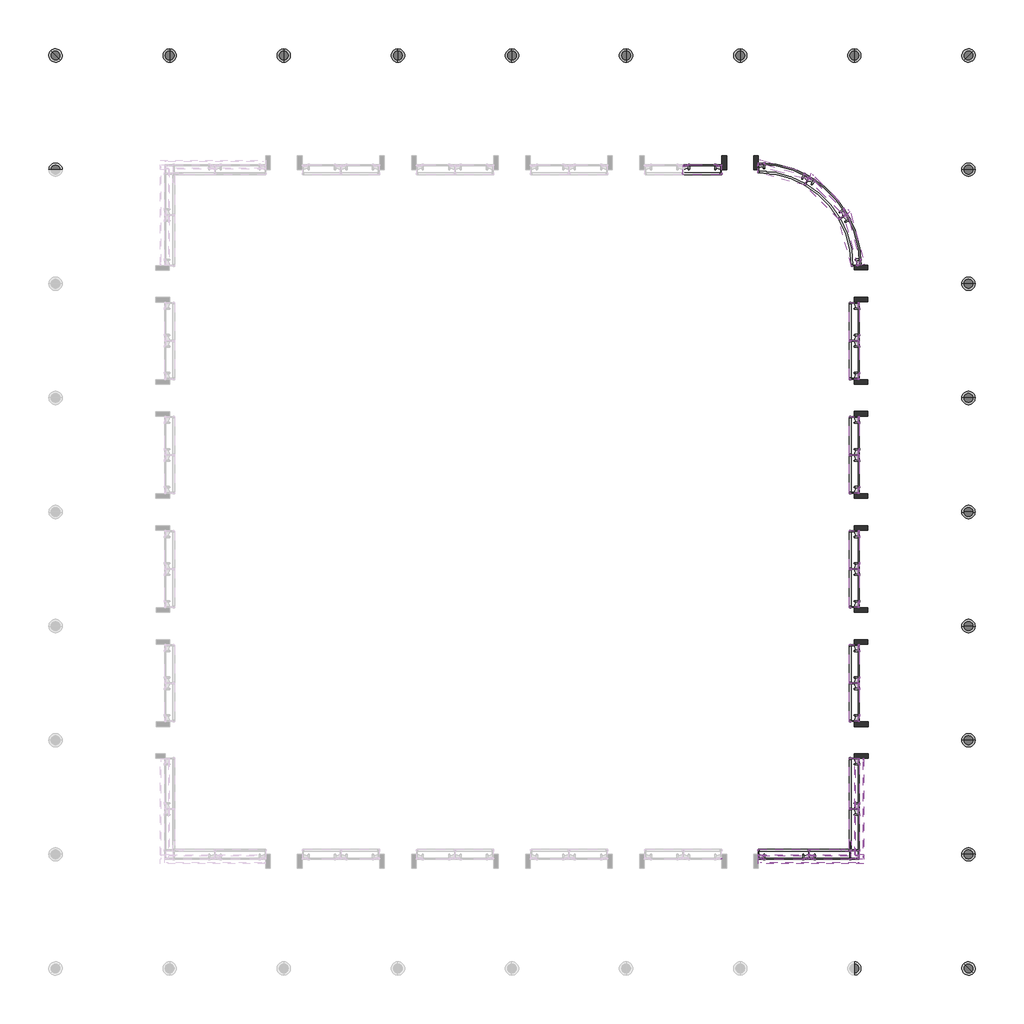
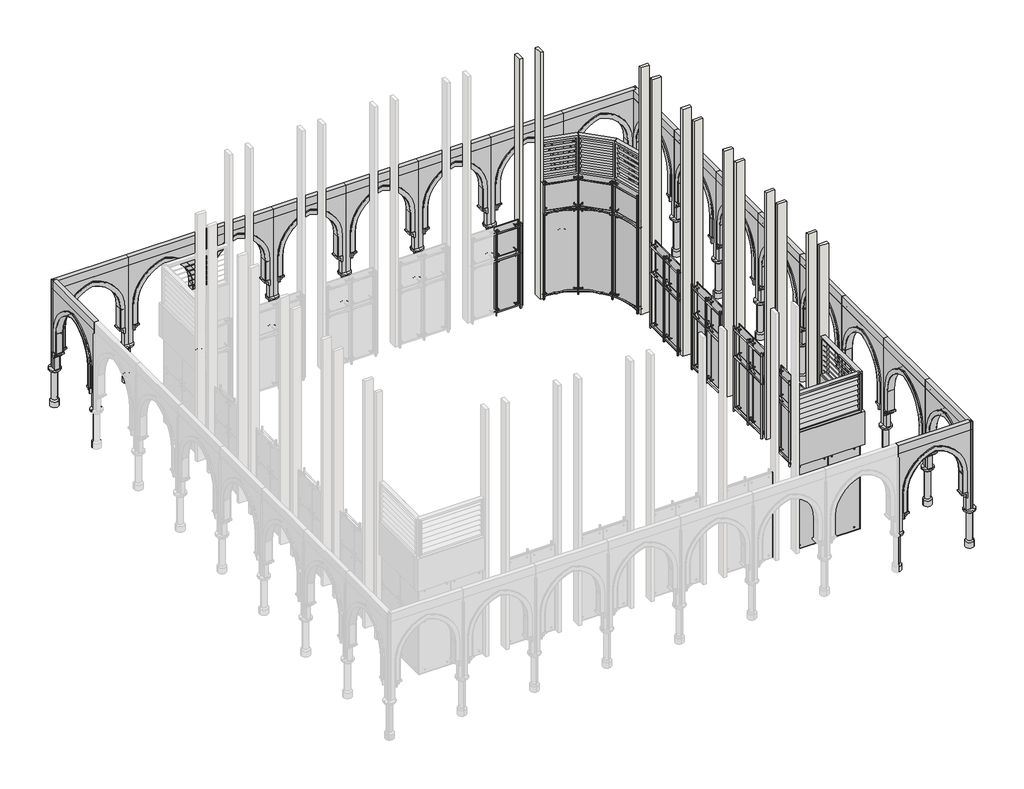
# One storey, part 3 of 3: 77 plates, 12 walls.
"""IFC4 building model written with IfcOpenShell, lengths in millimetres."""

from ifc_helpers import new_model, si_unit, frame, origin, origin_with_axes, place, context, project, spatial, polyline, outline, extrude, faceted_brep, transform, mapped, element, save
from components import plate_934565e3, plate_2a50b36d, plate_2afd96b2, plate_4a8f0e75, plate_5769654e, plate_3c04c4e5, plate_a1d4ab2c, plate_2770a3c2, plate_ec1fb357, plate_3ce3822d, plate_973b4995, plate_5dff8962, louvre_assembly_louvre_assembly_8bc7d318, louvre_assembly_louvre_assembly_a25a069c, louvre_assembly_louvre_assembly_d6f96269, system_panel_glazed_8939cce6, system_panel_glazed_fc2bf58b, system_panel_glazed_bbb9c1de, system_panel_glazed_46e9ba5c, template_template_90c3116e, template_template_87ff5dd4, template_template_a2108bdb, template_template_a81cd723, template_template_36c4455a, template_template_6cb1fb04, template_template_e36a3564

model = new_model("IFC4")

# Units and contexts
model_context = context("Model", 3, world=origin())
ifc_project = project(units=[si_unit("LENGTHUNIT", "METRE", prefix="MILLI")], contexts=[model_context])

# Site, building, storey
site = spatial("IfcSite", under=ifc_project)
building = spatial("IfcBuilding", under=site)
storey = spatial("IfcBuildingStorey", under=building, Name="00_AR_GF_FFL", Elevation=0.0)

# Plates
placement = place(None, origin())
plate_shape = plate_934565e3(model_context)
element("IfcPlate", 1, ObjectType="FLATNING_TRYOUT : FLATNING_TRYOUT", at=placement, inside=storey, context=model_context, shape_type="MappedRepresentation", body=[
    mapped(plate_shape, transform((741.4224677, -1094.430099, 0.0), x_axis=(1.0, 0.0, 0.0), y_axis=(0.0, 1.0, 0.0), z_axis=(0.0, 0.0, 1.0))),
])
element("IfcPlate", 2, ObjectType="FLATNING_TRYOUT : FLATNING_TRYOUT", at=placement, inside=storey, context=model_context, shape_type="MappedRepresentation", body=[
    mapped(plate_shape, transform((4186.4224677, -5369.430099, 0.0), x_axis=(0.0, -1.0, 0.0), y_axis=(1.0, 0.0, 0.0), z_axis=(0.0, 0.0, 1.0))),
])
element("IfcPlate", 3, ObjectType="FLATNING_TRYOUT : FLATNING_TRYOUT", at=placement, inside=storey, context=model_context, shape_type="MappedRepresentation", body=[
    mapped(plate_shape, transform((4186.4224677, -4539.430099, 0.0), x_axis=(0.0, -1.0, 0.0), y_axis=(1.0, 0.0, 0.0), z_axis=(0.0, 0.0, 1.0))),
])
element("IfcPlate", 4, ObjectType="FLATNING_TRYOUT : FLATNING_TRYOUT", at=placement, inside=storey, context=model_context, shape_type="MappedRepresentation", body=[
    mapped(plate_shape, transform((4186.4224677, -7869.430099, 0.0), x_axis=(0.0, -1.0, 0.0), y_axis=(1.0, 0.0, 0.0), z_axis=(0.0, 0.0, 1.0))),
])
element("IfcPlate", 5, ObjectType="FLATNING_TRYOUT : FLATNING_TRYOUT", at=placement, inside=storey, context=model_context, shape_type="MappedRepresentation", body=[
    mapped(plate_shape, transform((4186.4224677, -7039.430099, 0.0), x_axis=(0.0, -1.0, 0.0), y_axis=(1.0, 0.0, 0.0), z_axis=(0.0, 0.0, 1.0))),
])
element("IfcPlate", 6, ObjectType="FLATNING_TRYOUT : FLATNING_TRYOUT", at=placement, inside=storey, context=model_context, shape_type="MappedRepresentation", body=[
    mapped(plate_shape, transform((4186.4224677, -10369.430099, 0.0), x_axis=(0.0, -1.0, 0.0), y_axis=(1.0, 0.0, 0.0), z_axis=(0.0, 0.0, 1.0))),
])
element("IfcPlate", 7, ObjectType="FLATNING_TRYOUT : FLATNING_TRYOUT", at=placement, inside=storey, context=model_context, shape_type="MappedRepresentation", body=[
    mapped(plate_shape, transform((4186.4224677, -9539.430099, 0.0), x_axis=(0.0, -1.0, 0.0), y_axis=(1.0, 0.0, 0.0), z_axis=(0.0, 0.0, 1.0))),
])
element("IfcPlate", 8, ObjectType="FLATNING_TRYOUT : FLATNING_TRYOUT", at=placement, inside=storey, context=model_context, shape_type="MappedRepresentation", body=[
    mapped(plate_shape, transform((4186.4224677, -12869.430099, 0.0), x_axis=(0.0, -1.0, 0.0), y_axis=(1.0, 0.0, 0.0), z_axis=(0.0, 0.0, 1.0))),
])
element("IfcPlate", 9, ObjectType="FLATNING_TRYOUT : FLATNING_TRYOUT", at=placement, inside=storey, context=model_context, shape_type="MappedRepresentation", body=[
    mapped(plate_shape, transform((4186.4224677, -12039.430099, 0.0), x_axis=(0.0, -1.0, 0.0), y_axis=(1.0, 0.0, 0.0), z_axis=(0.0, 0.0, 1.0))),
])
plate_2_shape = plate_2a50b36d(model_context)
element("IfcPlate", 10, ObjectType="FLATNING_TRYOUT : FLATNING_TRYOUT", at=placement, inside=storey, context=model_context, shape_type="MappedRepresentation", body=[
    mapped(plate_2_shape, transform((741.4224677, -1094.430099, 2000.0), x_axis=(1.0, 0.0, 0.0), y_axis=(0.0, 1.0, 0.0), z_axis=(0.0, 0.0, 1.0))),
])
element("IfcPlate", 11, ObjectType="FLATNING_TRYOUT : FLATNING_TRYOUT", at=placement, inside=storey, context=model_context, shape_type="MappedRepresentation", body=[
    mapped(plate_2_shape, transform((4186.4224677, -5369.430099, 2000.0), x_axis=(0.0, -1.0, 0.0), y_axis=(1.0, 0.0, 0.0), z_axis=(0.0, 0.0, 1.0))),
])
element("IfcPlate", 12, ObjectType="FLATNING_TRYOUT : FLATNING_TRYOUT", at=placement, inside=storey, context=model_context, shape_type="MappedRepresentation", body=[
    mapped(plate_2_shape, transform((4186.4224677, -4539.430099, 2000.0), x_axis=(0.0, -1.0, 0.0), y_axis=(1.0, 0.0, 0.0), z_axis=(0.0, 0.0, 1.0))),
])
element("IfcPlate", 13, ObjectType="FLATNING_TRYOUT : FLATNING_TRYOUT", at=placement, inside=storey, context=model_context, shape_type="MappedRepresentation", body=[
    mapped(plate_2_shape, transform((4186.4224677, -7869.430099, 2000.0), x_axis=(0.0, -1.0, 0.0), y_axis=(1.0, 0.0, 0.0), z_axis=(0.0, 0.0, 1.0))),
])
element("IfcPlate", 14, ObjectType="FLATNING_TRYOUT : FLATNING_TRYOUT", at=placement, inside=storey, context=model_context, shape_type="MappedRepresentation", body=[
    mapped(plate_2_shape, transform((4186.4224677, -7039.430099, 2000.0), x_axis=(0.0, -1.0, 0.0), y_axis=(1.0, 0.0, 0.0), z_axis=(0.0, 0.0, 1.0))),
])
element("IfcPlate", 15, ObjectType="FLATNING_TRYOUT : FLATNING_TRYOUT", at=placement, inside=storey, context=model_context, shape_type="MappedRepresentation", body=[
    mapped(plate_2_shape, transform((4186.4224677, -10369.430099, 2000.0), x_axis=(0.0, -1.0, 0.0), y_axis=(1.0, 0.0, 0.0), z_axis=(0.0, 0.0, 1.0))),
])
element("IfcPlate", 16, ObjectType="FLATNING_TRYOUT : FLATNING_TRYOUT", at=placement, inside=storey, context=model_context, shape_type="MappedRepresentation", body=[
    mapped(plate_2_shape, transform((4186.4224677, -9539.430099, 2000.0), x_axis=(0.0, -1.0, 0.0), y_axis=(1.0, 0.0, 0.0), z_axis=(0.0, 0.0, 1.0))),
])
element("IfcPlate", 17, ObjectType="FLATNING_TRYOUT : FLATNING_TRYOUT", at=placement, inside=storey, context=model_context, shape_type="MappedRepresentation", body=[
    mapped(plate_2_shape, transform((4186.4224677, -12869.430099, 2000.0), x_axis=(0.0, -1.0, 0.0), y_axis=(1.0, 0.0, 0.0), z_axis=(0.0, 0.0, 1.0))),
])
element("IfcPlate", 18, ObjectType="FLATNING_TRYOUT : FLATNING_TRYOUT", at=placement, inside=storey, context=model_context, shape_type="MappedRepresentation", body=[
    mapped(plate_2_shape, transform((4186.4224677, -12039.430099, 2000.0), x_axis=(0.0, -1.0, 0.0), y_axis=(1.0, 0.0, 0.0), z_axis=(0.0, 0.0, 1.0))),
])
plate_3_shape = plate_2afd96b2(model_context)
element("IfcPlate", 19, ObjectType="FLATNING_TRYOUT : FLATNING_TRYOUT", at=placement, inside=storey, context=model_context, shape_type="MappedRepresentation", body=[
    mapped(plate_3_shape, transform((2528.9224677, -16314.430099, 0.0), x_axis=(1.0, 0.0, 0.0), y_axis=(0.0, 1.0, 0.0), z_axis=(0.0, 0.0, 1.0))),
])
element("IfcPlate", 20, ObjectType="FLATNING_TRYOUT : FLATNING_TRYOUT", at=placement, inside=storey, context=model_context, shape_type="MappedRepresentation", body=[
    mapped(plate_3_shape, transform((4186.4224677, -14656.930099, 0.0), x_axis=(0.0, 1.0, 0.0), y_axis=(-1.0, 0.0, 0.0), z_axis=(0.0, 0.0, 1.0))),
])
plate_4_shape = plate_4a8f0e75(model_context)
element("IfcPlate", 21, ObjectType="FLATNING_TRYOUT_CORNER : FLATNING_TRYOUT_CORNER", at=placement, inside=storey, context=model_context, shape_type="MappedRepresentation", body=[
    mapped(plate_4_shape, transform((3633.9224677, -16314.430099, 0.0), x_axis=(1.0, 0.0, 0.0), y_axis=(0.0, 1.0, 0.0), z_axis=(0.0, 0.0, 1.0))),
])
plate_5_shape = plate_5769654e(model_context)
element("IfcPlate", 22, ObjectType="FLATNING_TRYOUT_CORNER : FLATNING_TRYOUT_CORNER", at=placement, inside=storey, context=model_context, shape_type="MappedRepresentation", body=[
    mapped(plate_5_shape, transform((4186.4224677, -15761.930099, 0.0), x_axis=(0.0, -1.0, 0.0), y_axis=(1.0, 0.0, 0.0), z_axis=(0.0, 0.0, 1.0))),
])
plate_6_shape = plate_3c04c4e5(model_context)
element("IfcPlate", 23, ObjectType="FLATNING_TRYOUT : FLATNING_TRYOUT", at=placement, inside=storey, context=model_context, shape_type="MappedRepresentation", body=[
    mapped(plate_6_shape, transform((2528.9224677, -16314.430099, 2000.0), x_axis=(1.0, 0.0, 0.0), y_axis=(0.0, 1.0, 0.0), z_axis=(0.0, 0.0, 1.0))),
])
element("IfcPlate", 24, ObjectType="FLATNING_TRYOUT : FLATNING_TRYOUT", at=placement, inside=storey, context=model_context, shape_type="MappedRepresentation", body=[
    mapped(plate_6_shape, transform((4186.4224677, -14656.930099, 2000.0), x_axis=(0.0, 1.0, 0.0), y_axis=(-1.0, 0.0, 0.0), z_axis=(0.0, 0.0, 1.0))),
])
plate_7_shape = plate_a1d4ab2c(model_context)
element("IfcPlate", 25, ObjectType="FLATNING_TRYOUT_CORNER : FLATNING_TRYOUT_CORNER", at=placement, inside=storey, context=model_context, shape_type="MappedRepresentation", body=[
    mapped(plate_7_shape, transform((4186.4224677, -15761.930099, 2000.0), x_axis=(0.0, -1.0, 0.0), y_axis=(1.0, 0.0, 0.0), z_axis=(0.0, 0.0, 1.0))),
])
plate_8_shape = plate_2770a3c2(model_context)
element("IfcPlate", 26, ObjectType="FLATNING_TRYOUT_CORNER : FLATNING_TRYOUT_CORNER", at=placement, inside=storey, context=model_context, shape_type="MappedRepresentation", body=[
    mapped(plate_8_shape, transform((3633.9224677, -16314.430099, 2000.0), x_axis=(1.0, 0.0, 0.0), y_axis=(0.0, 1.0, 0.0), z_axis=(0.0, 0.0, 1.0))),
])
plate_9_shape = plate_ec1fb357(model_context)
element("IfcPlate", 27, ObjectType="CONVEX_SPIDER : CONVEX_SPIDER", at=placement, inside=storey, context=model_context, shape_type="MappedRepresentation", body=[
    mapped(plate_9_shape, transform((2538.9224677, -1205.1515198, 0.0), x_axis=(0.9659258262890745, -0.25881904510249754, 0.0), y_axis=(0.25881904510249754, 0.9659258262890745, 0.0), z_axis=(0.0, 0.0, 1.0))),
])
element("IfcPlate", 28, ObjectType="CONVEX_SPIDER : CONVEX_SPIDER", at=placement, inside=storey, context=model_context, shape_type="MappedRepresentation", body=[
    mapped(plate_9_shape, transform((3513.2010469, -1767.6515198, 0.0), x_axis=(0.7071067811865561, -0.7071067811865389, 0.0), y_axis=(0.7071067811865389, 0.7071067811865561, 0.0), z_axis=(0.0, 0.0, 1.0))),
])
plate_10_shape = plate_3ce3822d(model_context)
element("IfcPlate", 29, ObjectType="CONVEX_SPIDER : CONVEX_SPIDER", at=placement, inside=storey, context=model_context, shape_type="MappedRepresentation", body=[
    mapped(plate_10_shape, transform((4075.7005136, -2740.8346686, 0.0), x_axis=(0.2592892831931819, -0.9657997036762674, 0.0), y_axis=(0.9657997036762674, 0.2592892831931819, 0.0), z_axis=(0.0, 0.0, 1.0))),
])
plate_11_shape = plate_973b4995(model_context)
element("IfcPlate", 30, ObjectType="CONVEX_SPIDER : CONVEX_SPIDER", at=placement, inside=storey, context=model_context, shape_type="MappedRepresentation", body=[
    mapped(plate_11_shape, transform((2538.9224677, -1205.1515198, 3105.0), x_axis=(0.9659258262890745, -0.2588190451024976, 0.0), y_axis=(0.2588190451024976, 0.9659258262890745, 0.0), z_axis=(0.0, 0.0, 1.0))),
])
element("IfcPlate", 31, ObjectType="CONVEX_SPIDER : CONVEX_SPIDER", at=placement, inside=storey, context=model_context, shape_type="MappedRepresentation", body=[
    mapped(plate_11_shape, transform((3513.2010469, -1767.6515198, 3105.0), x_axis=(0.7071067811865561, -0.7071067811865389, 0.0), y_axis=(0.7071067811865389, 0.7071067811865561, 0.0), z_axis=(0.0, 0.0, 1.0))),
])
plate_12_shape = plate_5dff8962(model_context)
element("IfcPlate", 32, ObjectType="CONVEX_SPIDER : CONVEX_SPIDER", at=placement, inside=storey, context=model_context, shape_type="MappedRepresentation", body=[
    mapped(plate_12_shape, transform((4075.7005136, -2740.8346686, 3105.0), x_axis=(0.25928928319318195, -0.9657997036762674, 0.0), y_axis=(0.9657997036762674, 0.25928928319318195, 0.0), z_axis=(0.0, 0.0, 1.0))),
])
element("IfcPlate", 33, ObjectType="Generic - 200mm", at=placement, inside=storey, context=model_context, shape_type="Brep", body=[
    faceted_brep([(1976.4224677, -16414.430099, 3105.0), (4286.4224677, -16414.430099, 3105.0), (4286.4224677, -16414.430099, 4305.0), (1976.4224677, -16414.430099, 4305.0), (1976.4224677, -16214.430099, 3105.0), (1976.4224677, -16214.430099, 4305.0), (4086.4224677, -16214.430099, 4305.0), (4286.4224677, -16214.430099, 4305.0), (4286.4224677, -16214.430099, 3105.0), (4086.4224677, -16214.430099, 3105.0)], [[[0, 1, 2, 3]], [[4, 5, 6, 7, 8, 9]], [[1, 0, 4, 9, 8]], [[3, 2, 7, 6, 5]], [[2, 1, 8, 7]], [[0, 3, 5, 4]]]),
])
element("IfcPlate", 34, ObjectType="Generic - 200mm", at=placement, inside=storey, context=model_context, shape_type="SweptSolid", body=[
    extrude(outline(polyline([(4286.4224677, -14104.430099), (4286.4224677, -16214.430099), (4086.4224677, -16214.430099), (4086.4224677, -14104.430099), (4286.4224677, -14104.430099)])), frame((0.0, 0.0, 3105.0), z_axis=(0.0, 0.0, 1.0), x_axis=(1.0, 0.0, 0.0)), (0.0, 0.0, 1.0), 1200.0),
])
louvre_assembly_louvre_assembly_shape = louvre_assembly_louvre_assembly_8bc7d318(model_context)
element("IfcPlate", 35, ObjectType="LOUVRE_ASSEMBLY : LOUVRE_ASSEMBLY", at=placement, inside=storey, context=model_context, shape_type="MappedRepresentation", body=[
    mapped(louvre_assembly_louvre_assembly_shape, transform((2538.9224677, -1205.1515198, 4305.0), x_axis=(0.9659258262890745, -0.25881904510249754, 0.0), y_axis=(0.25881904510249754, 0.9659258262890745, 0.0), z_axis=(0.0, 0.0, 1.0))),
])
element("IfcPlate", 36, ObjectType="LOUVRE_ASSEMBLY : LOUVRE_ASSEMBLY", at=placement, inside=storey, context=model_context, shape_type="MappedRepresentation", body=[
    mapped(louvre_assembly_louvre_assembly_shape, transform((3513.2010469, -1767.6515198, 4305.0), x_axis=(0.7071067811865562, -0.7071067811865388, 0.0), y_axis=(0.7071067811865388, 0.7071067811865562, 0.0), z_axis=(0.0, 0.0, 1.0))),
])
louvre_assembly_louvre_assembly_2_shape = louvre_assembly_louvre_assembly_a25a069c(model_context)
element("IfcPlate", 37, ObjectType="LOUVRE_ASSEMBLY : LOUVRE_ASSEMBLY", at=placement, inside=storey, context=model_context, shape_type="MappedRepresentation", body=[
    mapped(louvre_assembly_louvre_assembly_2_shape, transform((4075.7005136, -2740.8346686, 4305.0), x_axis=(0.259289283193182, -0.9657997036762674, 0.0), y_axis=(0.9657997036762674, 0.259289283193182, 0.0), z_axis=(0.0, 0.0, 1.0))),
])
louvre_assembly_louvre_assembly_3_shape = louvre_assembly_louvre_assembly_d6f96269(model_context)
element("IfcPlate", 38, ObjectType="LOUVRE_ASSEMBLY : LOUVRE_ASSEMBLY", at=placement, inside=storey, context=model_context, shape_type="MappedRepresentation", body=[
    mapped(louvre_assembly_louvre_assembly_3_shape, transform((4186.4224677, -15209.430099, 4305.0), x_axis=(0.0, 1.0, 0.0), y_axis=(-1.0, 0.0, 0.0), z_axis=(0.0, 0.0, 1.0))),
])
element("IfcPlate", 39, ObjectType="LOUVRE_ASSEMBLY : LOUVRE_ASSEMBLY", at=placement, inside=storey, context=model_context, shape_type="MappedRepresentation", body=[
    mapped(louvre_assembly_louvre_assembly_3_shape, transform((3081.4224677, -16314.430099, 4305.0), x_axis=(1.0, 0.0, 0.0), y_axis=(0.0, 1.0, 0.0), z_axis=(0.0, 0.0, 1.0))),
])
system_panel_glazed_shape = system_panel_glazed_8939cce6(model_context)
element("IfcPlate", 40, ObjectType="System Panel : Glazed", at=placement, inside=storey, context=model_context, shape_type="MappedRepresentation", body=[
    mapped(system_panel_glazed_shape, transform((1166.4224677, -1094.430099, 0.0), x_axis=(1.0, 0.0, 0.0), y_axis=(0.0, 1.0, 0.0), z_axis=(0.0, 0.0, 1.0))),
])
element("IfcPlate", 41, ObjectType="System Panel : Glazed", at=placement, inside=storey, context=model_context, shape_type="MappedRepresentation", body=[
    mapped(system_panel_glazed_shape, transform((4186.4224677, -4114.430099, 0.0), x_axis=(0.0, -1.0, 0.0), y_axis=(1.0, 0.0, 0.0), z_axis=(0.0, 0.0, 1.0))),
])
element("IfcPlate", 42, ObjectType="System Panel : Glazed", at=placement, inside=storey, context=model_context, shape_type="MappedRepresentation", body=[
    mapped(system_panel_glazed_shape, transform((4186.4224677, -5794.430099, 0.0), x_axis=(0.0, -1.0, 0.0), y_axis=(1.0, 0.0, 0.0), z_axis=(0.0, 0.0, 1.0))),
])
element("IfcPlate", 43, ObjectType="System Panel : Glazed", at=placement, inside=storey, context=model_context, shape_type="MappedRepresentation", body=[
    mapped(system_panel_glazed_shape, transform((4186.4224677, -6614.430099, 0.0), x_axis=(0.0, -1.0, 0.0), y_axis=(1.0, 0.0, 0.0), z_axis=(0.0, 0.0, 1.0))),
])
element("IfcPlate", 44, ObjectType="System Panel : Glazed", at=placement, inside=storey, context=model_context, shape_type="MappedRepresentation", body=[
    mapped(system_panel_glazed_shape, transform((4186.4224677, -8294.430099, 0.0), x_axis=(0.0, -1.0, 0.0), y_axis=(1.0, 0.0, 0.0), z_axis=(0.0, 0.0, 1.0))),
])
element("IfcPlate", 45, ObjectType="System Panel : Glazed", at=placement, inside=storey, context=model_context, shape_type="MappedRepresentation", body=[
    mapped(system_panel_glazed_shape, transform((4186.4224677, -9114.430099, 0.0), x_axis=(0.0, -1.0, 0.0), y_axis=(1.0, 0.0, 0.0), z_axis=(0.0, 0.0, 1.0))),
])
element("IfcPlate", 46, ObjectType="System Panel : Glazed", at=placement, inside=storey, context=model_context, shape_type="MappedRepresentation", body=[
    mapped(system_panel_glazed_shape, transform((4186.4224677, -10794.430099, 0.0), x_axis=(0.0, -1.0, 0.0), y_axis=(1.0, 0.0, 0.0), z_axis=(0.0, 0.0, 1.0))),
])
element("IfcPlate", 47, ObjectType="System Panel : Glazed", at=placement, inside=storey, context=model_context, shape_type="MappedRepresentation", body=[
    mapped(system_panel_glazed_shape, transform((4186.4224677, -11614.430099, 0.0), x_axis=(0.0, -1.0, 0.0), y_axis=(1.0, 0.0, 0.0), z_axis=(0.0, 0.0, 1.0))),
])
element("IfcPlate", 48, ObjectType="System Panel : Glazed", at=placement, inside=storey, context=model_context, shape_type="MappedRepresentation", body=[
    mapped(system_panel_glazed_shape, transform((4186.4224677, -13294.430099, 0.0), x_axis=(0.0, -1.0, 0.0), y_axis=(1.0, 0.0, 0.0), z_axis=(0.0, 0.0, 1.0))),
])
system_panel_glazed_2_shape = system_panel_glazed_fc2bf58b(model_context)
element("IfcPlate", 49, ObjectType="System Panel : Glazed", at=placement, inside=storey, context=model_context, shape_type="MappedRepresentation", body=[
    mapped(system_panel_glazed_2_shape, transform((1166.4224677, -1094.430099, 2000.0), x_axis=(1.0, 0.0, 0.0), y_axis=(0.0, 1.0, 0.0), z_axis=(0.0, 0.0, 1.0))),
])
element("IfcPlate", 50, ObjectType="System Panel : Glazed", at=placement, inside=storey, context=model_context, shape_type="MappedRepresentation", body=[
    mapped(system_panel_glazed_2_shape, transform((4186.4224677, -4114.430099, 2000.0), x_axis=(0.0, -1.0, 0.0), y_axis=(1.0, 0.0, 0.0), z_axis=(0.0, 0.0, 1.0))),
])
element("IfcPlate", 51, ObjectType="System Panel : Glazed", at=placement, inside=storey, context=model_context, shape_type="MappedRepresentation", body=[
    mapped(system_panel_glazed_2_shape, transform((4186.4224677, -5794.430099, 2000.0), x_axis=(0.0, -1.0, 0.0), y_axis=(1.0, 0.0, 0.0), z_axis=(0.0, 0.0, 1.0))),
])
element("IfcPlate", 52, ObjectType="System Panel : Glazed", at=placement, inside=storey, context=model_context, shape_type="MappedRepresentation", body=[
    mapped(system_panel_glazed_2_shape, transform((4186.4224677, -6614.430099, 2000.0), x_axis=(0.0, -1.0, 0.0), y_axis=(1.0, 0.0, 0.0), z_axis=(0.0, 0.0, 1.0))),
])
element("IfcPlate", 53, ObjectType="System Panel : Glazed", at=placement, inside=storey, context=model_context, shape_type="MappedRepresentation", body=[
    mapped(system_panel_glazed_2_shape, transform((4186.4224677, -8294.430099, 2000.0), x_axis=(0.0, -1.0, 0.0), y_axis=(1.0, 0.0, 0.0), z_axis=(0.0, 0.0, 1.0))),
])
element("IfcPlate", 54, ObjectType="System Panel : Glazed", at=placement, inside=storey, context=model_context, shape_type="MappedRepresentation", body=[
    mapped(system_panel_glazed_2_shape, transform((4186.4224677, -9114.430099, 2000.0), x_axis=(0.0, -1.0, 0.0), y_axis=(1.0, 0.0, 0.0), z_axis=(0.0, 0.0, 1.0))),
])
element("IfcPlate", 55, ObjectType="System Panel : Glazed", at=placement, inside=storey, context=model_context, shape_type="MappedRepresentation", body=[
    mapped(system_panel_glazed_2_shape, transform((4186.4224677, -10794.430099, 2000.0), x_axis=(0.0, -1.0, 0.0), y_axis=(1.0, 0.0, 0.0), z_axis=(0.0, 0.0, 1.0))),
])
element("IfcPlate", 56, ObjectType="System Panel : Glazed", at=placement, inside=storey, context=model_context, shape_type="MappedRepresentation", body=[
    mapped(system_panel_glazed_2_shape, transform((4186.4224677, -11614.430099, 2000.0), x_axis=(0.0, -1.0, 0.0), y_axis=(1.0, 0.0, 0.0), z_axis=(0.0, 0.0, 1.0))),
])
element("IfcPlate", 57, ObjectType="System Panel : Glazed", at=placement, inside=storey, context=model_context, shape_type="MappedRepresentation", body=[
    mapped(system_panel_glazed_2_shape, transform((4186.4224677, -13294.430099, 2000.0), x_axis=(0.0, -1.0, 0.0), y_axis=(1.0, 0.0, 0.0), z_axis=(0.0, 0.0, 1.0))),
])
system_panel_glazed_3_shape = system_panel_glazed_bbb9c1de(model_context)
element("IfcPlate", 58, ObjectType="System Panel : Glazed", at=placement, inside=storey, context=model_context, shape_type="MappedRepresentation", body=[
    mapped(system_panel_glazed_3_shape, transform((1166.4224677, -16314.430099, 0.0), x_axis=(1.0, 0.0, 0.0), y_axis=(0.0, 1.0, 0.0), z_axis=(0.0, 0.0, 1.0))),
])
system_panel_glazed_4_shape = system_panel_glazed_46e9ba5c(model_context)
element("IfcPlate", 59, ObjectType="System Panel : Glazed", at=placement, inside=storey, context=model_context, shape_type="MappedRepresentation", body=[
    mapped(system_panel_glazed_4_shape, transform((1166.4224677, -16314.430099, 2000.0), x_axis=(1.0, 0.0, 0.0), y_axis=(0.0, 1.0, 0.0), z_axis=(0.0, 0.0, 1.0))),
])
template_template_shape = template_template_90c3116e(model_context)
element("IfcPlate", 60, ObjectType="TEMPLATE : TEMPLATE", at=placement, inside=storey, context=model_context, shape_type="MappedRepresentation", body=[
    mapped(template_template_shape, transform((2826.4224677, 1295.569901, 0.0), x_axis=(1.0, 0.0, 0.0), y_axis=(0.0, 1.0, 0.0), z_axis=(0.0, 0.0, 1.0))),
])
element("IfcPlate", 61, ObjectType="TEMPLATE : TEMPLATE", at=placement, inside=storey, context=model_context, shape_type="MappedRepresentation", body=[
    mapped(template_template_shape, transform((326.4224677, 1295.569901, 0.0), x_axis=(1.0, 0.0, 0.0), y_axis=(0.0, 1.0, 0.0), z_axis=(0.0, 0.0, 1.0))),
])
element("IfcPlate", 62, ObjectType="TEMPLATE : TEMPLATE", at=placement, inside=storey, context=model_context, shape_type="MappedRepresentation", body=[
    mapped(template_template_shape, transform((-2173.5775323, 1295.569901, 0.0), x_axis=(1.0, 0.0, 0.0), y_axis=(0.0, 1.0, 0.0), z_axis=(0.0, 0.0, 1.0))),
])
element("IfcPlate", 63, ObjectType="TEMPLATE : TEMPLATE", at=placement, inside=storey, context=model_context, shape_type="MappedRepresentation", body=[
    mapped(template_template_shape, transform((-4673.5775323, 1295.569901, 0.0), x_axis=(1.0, 0.0, 0.0), y_axis=(0.0, 1.0, 0.0), z_axis=(0.0, 0.0, 1.0))),
])
element("IfcPlate", 64, ObjectType="TEMPLATE : TEMPLATE", at=placement, inside=storey, context=model_context, shape_type="MappedRepresentation", body=[
    mapped(template_template_shape, transform((-7173.5775323, 1295.569901, 0.0), x_axis=(1.0, 0.0, 0.0), y_axis=(0.0, 1.0, 0.0), z_axis=(0.0, 0.0, 1.0))),
])
element("IfcPlate", 65, ObjectType="TEMPLATE : TEMPLATE", at=placement, inside=storey, context=model_context, shape_type="MappedRepresentation", body=[
    mapped(template_template_shape, transform((-9673.5775323, 1295.569901, 0.0), x_axis=(1.0, 0.0, 0.0), y_axis=(0.0, 1.0, 0.0), z_axis=(0.0, 0.0, 1.0))),
])
template_template_2_shape = template_template_87ff5dd4(model_context)
element("IfcPlate", 66, ObjectType="TEMPLATE : TEMPLATE", at=placement, inside=storey, context=model_context, shape_type="MappedRepresentation", body=[
    mapped(template_template_2_shape, transform((-12173.5775323, 1295.569901, 0.0), x_axis=(1.0, 0.0, 0.0), y_axis=(0.0, 1.0, 0.0), z_axis=(0.0, 0.0, 1.0))),
])
template_template_3_shape = template_template_a2108bdb(model_context)
element("IfcPlate", 67, ObjectType="TEMPLATE : TEMPLATE", at=placement, inside=storey, context=model_context, shape_type="MappedRepresentation", body=[
    mapped(template_template_3_shape, transform((-13423.5775323, 45.569901, 0.0), x_axis=(0.0, 1.0, 0.0), y_axis=(-1.0, 0.0, 0.0), z_axis=(0.0, 0.0, 1.0))),
])
element("IfcPlate", 68, ObjectType="TEMPLATE : TEMPLATE", at=placement, inside=storey, context=model_context, shape_type="MappedRepresentation", body=[
    mapped(template_template_3_shape, transform((5326.4224677, 1295.569901, 0.0), x_axis=(1.0, 0.0, 0.0), y_axis=(0.0, 1.0, 0.0), z_axis=(0.0, 0.0, 1.0))),
])
template_template_4_shape = template_template_a81cd723(model_context)
element("IfcPlate", 69, ObjectType="TEMPLATE : TEMPLATE", at=placement, inside=storey, context=model_context, shape_type="MappedRepresentation", body=[
    mapped(template_template_4_shape, transform((6576.4224677, -2454.430099, 0.0), x_axis=(0.0, 1.0, 0.0), y_axis=(-1.0, 0.0, 0.0), z_axis=(0.0, 0.0, 1.0))),
])
element("IfcPlate", 70, ObjectType="TEMPLATE : TEMPLATE", at=placement, inside=storey, context=model_context, shape_type="MappedRepresentation", body=[
    mapped(template_template_4_shape, transform((6576.4224677, -4954.430099, 0.0), x_axis=(0.0, 1.0, 0.0), y_axis=(-1.0, 0.0, 0.0), z_axis=(0.0, 0.0, 1.0))),
])
element("IfcPlate", 71, ObjectType="TEMPLATE : TEMPLATE", at=placement, inside=storey, context=model_context, shape_type="MappedRepresentation", body=[
    mapped(template_template_4_shape, transform((6576.4224677, -7454.430099, 0.0), x_axis=(0.0, 1.0, 0.0), y_axis=(-1.0, 0.0, 0.0), z_axis=(0.0, 0.0, 1.0))),
])
element("IfcPlate", 72, ObjectType="TEMPLATE : TEMPLATE", at=placement, inside=storey, context=model_context, shape_type="MappedRepresentation", body=[
    mapped(template_template_4_shape, transform((6576.4224677, -9954.430099, 0.0), x_axis=(0.0, 1.0, 0.0), y_axis=(-1.0, 0.0, 0.0), z_axis=(0.0, 0.0, 1.0))),
])
element("IfcPlate", 73, ObjectType="TEMPLATE : TEMPLATE", at=placement, inside=storey, context=model_context, shape_type="MappedRepresentation", body=[
    mapped(template_template_4_shape, transform((6576.4224677, -12454.430099, 0.0), x_axis=(0.0, 1.0, 0.0), y_axis=(-1.0, 0.0, 0.0), z_axis=(0.0, 0.0, 1.0))),
])
element("IfcPlate", 74, ObjectType="TEMPLATE : TEMPLATE", at=placement, inside=storey, context=model_context, shape_type="MappedRepresentation", body=[
    mapped(template_template_4_shape, transform((6576.4224677, -14954.430099, 0.0), x_axis=(0.0, 1.0, 0.0), y_axis=(-1.0, 0.0, 0.0), z_axis=(0.0, 0.0, 1.0))),
])
template_template_5_shape = template_template_36c4455a(model_context)
element("IfcPlate", 75, ObjectType="TEMPLATE : TEMPLATE", at=placement, inside=storey, context=model_context, shape_type="MappedRepresentation", body=[
    mapped(template_template_5_shape, transform((6576.4224677, 45.569901, 0.0), x_axis=(0.0, 1.0, 0.0), y_axis=(-1.0, 0.0, 0.0), z_axis=(0.0, 0.0, 1.0))),
])
template_template_6_shape = template_template_6cb1fb04(model_context)
element("IfcPlate", 76, ObjectType="TEMPLATE : TEMPLATE", at=placement, inside=storey, context=model_context, shape_type="MappedRepresentation", body=[
    mapped(template_template_6_shape, transform((6576.4224677, -17454.430099, 0.0), x_axis=(0.0, 1.0, 0.0), y_axis=(-1.0, 0.0, 0.0), z_axis=(0.0, 0.0, 1.0))),
])
template_template_7_shape = template_template_e36a3564(model_context)
element("IfcPlate", 77, ObjectType="TEMPLATE : TEMPLATE", at=placement, inside=storey, context=model_context, shape_type="MappedRepresentation", body=[
    mapped(template_template_7_shape, transform((5326.4224677, -18704.430099, 0.0), x_axis=(1.0, 0.0, 0.0), y_axis=(0.0, 1.0, 0.0), z_axis=(0.0, 0.0, 1.0))),
])

# Walls
element("IfcWall", 78, ObjectType="Generic - 100mm", at=placement, inside=storey, context=model_context, shape_type="Brep", body=[
    faceted_brep([(1176.4224677, -904.430099, 0.0), (1176.4224677, -1204.430099, 0.0), (1176.4224677, -1204.430099, 3105.0), (1176.4224677, -1204.430099, 4305.0), (1176.4224677, -1204.430099, 5700.0), (1176.4224677, -1204.430099, 9000.0), (1176.4224677, -904.430099, 9000.0), (1176.4224677, -904.430099, 4250.0), (1176.4224677, -904.430099, 4000.0), (1276.4224677, -904.430099, 0.0), (1276.4224677, -904.430099, 4000.0), (1276.4224677, -904.430099, 4250.0), (1276.4224677, -904.430099, 9000.0), (1276.4224677, -1204.430099, 9000.0), (1276.4224677, -1204.430099, 0.0)], [[[0, 1, 2, 3, 4, 5, 6, 7, 8]], [[9, 10, 11, 12, 13, 14]], [[5, 4, 3, 2, 1, 14, 13]], [[1, 0, 9, 14]], [[6, 5, 13, 12]], [[0, 8, 7, 6, 12, 11, 10, 9]]]),
])
element("IfcWall", 79, ObjectType="Generic - 100mm", at=placement, inside=storey, context=model_context, shape_type="Brep", body=[
    faceted_brep([(1876.4224677, -904.430099, 0.0), (1876.4224677, -1204.430099, 0.0), (1876.4224677, -1204.430099, 9000.0), (1876.4224677, -904.430099, 9000.0), (1876.4224677, -904.430099, 4250.0), (1876.4224677, -904.430099, 4000.0), (1976.4224677, -904.430099, 0.0), (1976.4224677, -904.430099, 4000.0), (1976.4224677, -904.430099, 4250.0), (1976.4224677, -904.430099, 9000.0), (1976.4224677, -1204.430099, 9000.0), (1976.4224677, -1204.430099, 0.0)], [[[0, 1, 2, 3, 4, 5]], [[6, 7, 8, 9, 10, 11]], [[1, 0, 6, 11]], [[2, 1, 11, 10]], [[3, 2, 10, 9]], [[0, 5, 4, 3, 9, 8, 7, 6]]]),
])
element("IfcWall", 80, ObjectType="Generic - 100mm", at=placement, inside=storey, context=model_context, shape_type="SweptSolid", body=[
    extrude(outline(polyline([(4076.4224677, -3302.2397554), (4374.232124, -3302.2397554), (4374.232124, -3402.2397554), (4076.4224677, -3402.2397554), (4076.4224677, -3302.2397554)])), origin_with_axes(), (0.0, 0.0, 1.0), 9000.0),
])
element("IfcWall", 81, ObjectType="Generic - 100mm", at=placement, inside=storey, context=model_context, shape_type="SweptSolid", body=[
    extrude(outline(polyline([(4074.232124, -4002.2397554), (4374.232124, -4002.2397554), (4374.232124, -4102.2397554), (4074.232124, -4102.2397554), (4074.232124, -4002.2397554)])), origin_with_axes(), (0.0, 0.0, 1.0), 9000.0),
])
element("IfcWall", 82, ObjectType="Generic - 100mm", at=placement, inside=storey, context=model_context, shape_type="Brep", body=[
    faceted_brep([(4374.232124, -5802.2397554, 0.0), (4074.232124, -5802.2397554, 0.0), (4074.232124, -5802.2397554, 5700.0), (4074.232124, -5802.2397554, 9000.0), (4374.232124, -5802.2397554, 9000.0), (4374.232124, -5902.2397554, 0.0), (4374.232124, -5902.2397554, 9000.0), (4074.232124, -5902.2397554, 9000.0), (4074.232124, -5902.2397554, 0.0)], [[[0, 1, 2, 3, 4]], [[5, 6, 7, 8]], [[3, 2, 1, 8, 7]], [[1, 0, 5, 8]], [[4, 3, 7, 6]], [[0, 4, 6, 5]]]),
])
element("IfcWall", 83, ObjectType="Generic - 100mm", at=placement, inside=storey, context=model_context, shape_type="Brep", body=[
    faceted_brep([(4374.232124, -6502.2397554, 0.0), (4074.232124, -6502.2397554, 0.0), (4074.232124, -6502.2397554, 9000.0), (4374.232124, -6502.2397554, 9000.0), (4374.232124, -6602.2397554, 0.0), (4374.232124, -6602.2397554, 9000.0), (4074.232124, -6602.2397554, 9000.0), (4074.232124, -6602.2397554, 5700.0), (4074.232124, -6602.2397554, 0.0)], [[[0, 1, 2, 3]], [[4, 5, 6, 7, 8]], [[2, 1, 8, 7, 6]], [[1, 0, 4, 8]], [[3, 2, 6, 5]], [[0, 3, 5, 4]]]),
])
element("IfcWall", 84, ObjectType="Generic - 100mm", at=placement, inside=storey, context=model_context, shape_type="Brep", body=[
    faceted_brep([(4374.232124, -8302.2397554, 0.0), (4074.232124, -8302.2397554, 0.0), (4074.232124, -8302.2397554, 5700.0), (4074.232124, -8302.2397554, 9000.0), (4374.232124, -8302.2397554, 9000.0), (4374.232124, -8402.2397554, 0.0), (4374.232124, -8402.2397554, 9000.0), (4074.232124, -8402.2397554, 9000.0), (4074.232124, -8402.2397554, 0.0)], [[[0, 1, 2, 3, 4]], [[5, 6, 7, 8]], [[3, 2, 1, 8, 7]], [[1, 0, 5, 8]], [[4, 3, 7, 6]], [[0, 4, 6, 5]]]),
])
element("IfcWall", 85, ObjectType="Generic - 100mm", at=placement, inside=storey, context=model_context, shape_type="Brep", body=[
    faceted_brep([(4374.232124, -9002.2397554, 0.0), (4074.232124, -9002.2397554, 0.0), (4074.232124, -9002.2397554, 9000.0), (4374.232124, -9002.2397554, 9000.0), (4374.232124, -9102.2397554, 0.0), (4374.232124, -9102.2397554, 9000.0), (4074.232124, -9102.2397554, 9000.0), (4074.232124, -9102.2397554, 5700.0), (4074.232124, -9102.2397554, 0.0)], [[[0, 1, 2, 3]], [[4, 5, 6, 7, 8]], [[2, 1, 8, 7, 6]], [[1, 0, 4, 8]], [[3, 2, 6, 5]], [[0, 3, 5, 4]]]),
])
element("IfcWall", 86, ObjectType="Generic - 100mm", at=placement, inside=storey, context=model_context, shape_type="Brep", body=[
    faceted_brep([(4374.232124, -10802.2397554, 0.0), (4074.232124, -10802.2397554, 0.0), (4074.232124, -10802.2397554, 5700.0), (4074.232124, -10802.2397554, 9000.0), (4374.232124, -10802.2397554, 9000.0), (4374.232124, -10902.2397554, 0.0), (4374.232124, -10902.2397554, 9000.0), (4074.232124, -10902.2397554, 9000.0), (4074.232124, -10902.2397554, 0.0)], [[[0, 1, 2, 3, 4]], [[5, 6, 7, 8]], [[3, 2, 1, 8, 7]], [[1, 0, 5, 8]], [[4, 3, 7, 6]], [[0, 4, 6, 5]]]),
])
element("IfcWall", 87, ObjectType="Generic - 100mm", at=placement, inside=storey, context=model_context, shape_type="Brep", body=[
    faceted_brep([(4374.232124, -11502.2397554, 0.0), (4074.232124, -11502.2397554, 0.0), (4074.232124, -11502.2397554, 9000.0), (4374.232124, -11502.2397554, 9000.0), (4374.232124, -11602.2397554, 0.0), (4374.232124, -11602.2397554, 9000.0), (4074.232124, -11602.2397554, 9000.0), (4074.232124, -11602.2397554, 5700.0), (4074.232124, -11602.2397554, 0.0)], [[[0, 1, 2, 3]], [[4, 5, 6, 7, 8]], [[2, 1, 8, 7, 6]], [[1, 0, 4, 8]], [[3, 2, 6, 5]], [[0, 3, 5, 4]]]),
])
element("IfcWall", 88, ObjectType="Generic - 100mm", at=placement, inside=storey, context=model_context, shape_type="Brep", body=[
    faceted_brep([(4376.4224677, -13304.430099, 0.0), (4074.232124, -13304.430099, 0.0), (4074.232124, -13304.430099, 5700.0), (4074.232124, -13304.430099, 9000.0), (4076.4224677, -13304.430099, 9000.0), (4376.4224677, -13304.430099, 9000.0), (4376.4224677, -13404.430099, 0.0), (4376.4224677, -13404.430099, 9000.0), (4076.4224677, -13404.430099, 9000.0), (4074.232124, -13404.430099, 9000.0), (4074.232124, -13404.430099, 0.0)], [[[0, 1, 2, 3, 4, 5]], [[6, 7, 8, 9, 10]], [[3, 2, 1, 10, 9]], [[1, 0, 6, 10]], [[5, 4, 3, 9, 8, 7]], [[0, 5, 7, 6]]]),
])
element("IfcWall", 89, ObjectType="Generic - 100mm", at=placement, inside=storey, context=model_context, shape_type="Brep", body=[
    faceted_brep([(4376.4224677, -14004.430099, 0.0), (4074.232124, -14004.430099, 0.0), (4074.232124, -14004.430099, 9000.0), (4076.4224677, -14004.430099, 9000.0), (4376.4224677, -14004.430099, 9000.0), (4376.4224677, -14104.430099, 0.0), (4376.4224677, -14104.430099, 9000.0), (4076.4224677, -14104.430099, 9000.0), (4074.232124, -14104.430099, 9000.0), (4074.232124, -14104.430099, 8300.0), (4074.232124, -14104.430099, 6100.0), (4074.232124, -14104.430099, 5700.0), (4074.232124, -14104.430099, 0.0)], [[[0, 1, 2, 3, 4]], [[5, 6, 7, 8, 9, 10, 11, 12]], [[2, 1, 12, 11, 10, 9, 8]], [[1, 0, 5, 12]], [[4, 3, 2, 8, 7, 6]], [[0, 4, 6, 5]]]),
])

save(model, "model.ifc")
